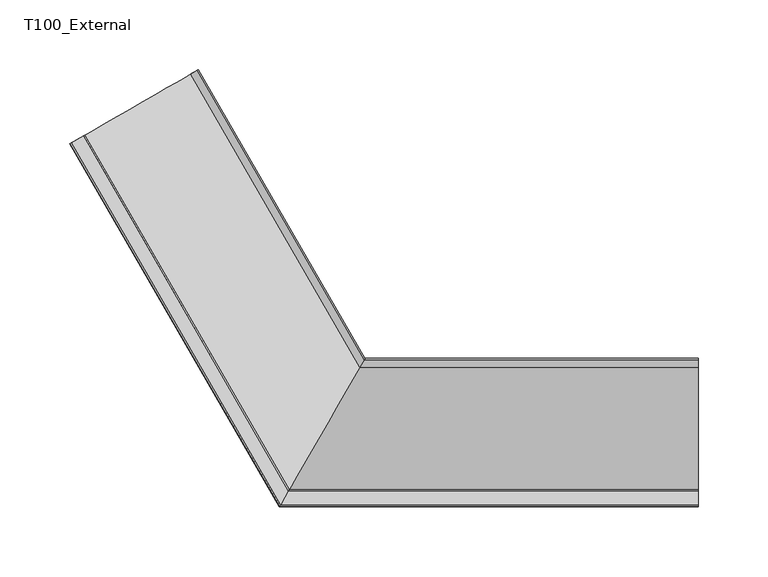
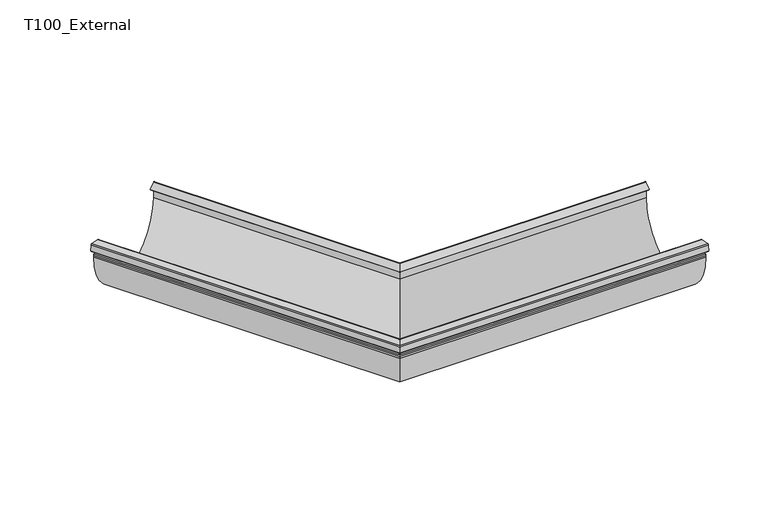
"""IFC4 building model written with IfcOpenShell, lengths in millimetres: proxy geometry, GROVIK_Gutter_Corner_Custom : T100_External."""

from ifc_helpers import new_model, si_unit, frame, origin, place, context, project, spatial, polyline, circle_curve, ellipse_curve, source, transform, mapped, element, save
from ifc_brep_helpers import plane_surface, cylinder_surface, revolved_surface, advanced_brep


def t100_external_8aecd6d0(model_context):
    return source(origin(), model_context, "Body", "AdvancedBrep", [
        advanced_brep(
        [(-202.2027751, 158.8683349, -12.9222473), (-201.4610185, 159.2965882, -3.1323306), (-210.0863128, 154.3167723, -1.3761787), (-210.5350054, 154.0577195, -7.2981526), (-204.5087678, 157.5369694, -6.0711814), (-204.3734225, 157.615111, -6.9575084), (-210.288512, 154.2000325, -8.1618494), (-211.3016257, 153.615111, -7.0898859), (-210.8716383, 153.8633644, -1.4147892), (-209.9334293, 154.4050396, -0.5057502), (-201.404744, 159.3290783, -2.242232), (-200.6923978, 159.7403516, -3.3141955), (-201.4199847, 159.3202791, -12.9170968), (-202.2072356, 158.8657596, -13.8261357), (-206.7246639, 156.2576211, -14.2825008), (-206.7246639, 156.2576211, -16.3578028), (-120.1221236, 206.2576211, -16.3578028), (-120.1221236, 206.2576211, -1.3578028), (-124.23529, 203.8828834, -5.3430859), (-124.7362934, 203.5936289, -4.6536459), (-120.0540486, 206.2969242, -0.1169778), (-119.3427007, 206.7076211, -0.5), (-119.3427007, 206.7076211, -16.3578028), (-207.5040868, 155.8076211, -16.3578028), (-207.5040868, 155.8076211, -14.3741339), (-206.7135405, 156.2640433, -13.3779392), (-58.2472265, -100.8871557, -13.3779392), (-55.2400496, -95.6785725, -12.9222473), (-58.7742574, -101.8, -14.3741339), (-58.7742574, -101.8, -16.3578028), (0.0, 0.0, -16.3578028), (0.0, 0.0, -0.5), (-0.4742319, -0.8213938, -0.1169778), (-3.5957285, -6.2279844, -4.6536459), (-3.2617262, -5.6494755, -5.3430859), (-0.5196152, -0.9, -1.3578028), (-0.5196152, -0.9, -16.3578028), (-58.2546422, -100.9, -16.3578028), (-58.2546422, -100.9, -14.2825008), (-55.2430232, -95.683723, -13.8261357), (-54.7181894, -94.7746841, -12.9170968), (-54.2331314, -93.9345391, -3.3141955), (-54.7080289, -94.7570856, -2.242232), (-60.3938191, -104.6051631, -0.5057502), (-61.0192918, -105.6885136, -1.4147892), (-61.30595, -106.1850202, -7.0898859), (-60.6305409, -105.0151773, -8.1618494), (-56.6871478, -98.1850202, -6.9575084), (-56.7773781, -98.3413035, -6.0711814), (-60.7948698, -105.2998033, -7.2981526), (-60.4957414, -104.7816977, -1.3761787), (-54.7455452, -94.8220658, -3.1323306)],
        [
            (0, 1),
            (1, 2),
            (2, 3),
            (3, 4),
            (4, 5),
            (5, 6),
            (6, 7, circle_curve(frame((-210.4388958, 154.1132084, -7.1770416), z_axis=(-0.49999999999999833, 0.8660254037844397, 0.0), x_axis=(0.8660254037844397, 0.49999999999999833, 0.0)), 1.0)),
            (7, 8),
            (8, 9, circle_curve(frame((-210.0089084, 154.3614617, -1.5019449), z_axis=(-0.49999999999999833, 0.8660254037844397, 0.0), x_axis=(0.8660254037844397, 0.49999999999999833, 0.0)), 1.0)),
            (9, 10),
            (10, 11, circle_curve(frame((-201.5551277, 159.2422543, -3.2270397), z_axis=(-0.49999999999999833, 0.8660254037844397, 0.0), x_axis=(0.8660254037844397, 0.49999999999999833, 0.0)), 1.0)),
            (11, 12),
            (12, 13, circle_curve(frame((-202.2072356, 158.8657596, -12.9170968), z_axis=(-0.49999999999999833, 0.8660254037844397, 0.0), x_axis=(0.8660254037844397, 0.49999999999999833, 0.0)), 0.909039)),
            (13, 14),
            (14, 15),
            (15, 16, circle_curve(frame((-163.4233938, 181.2576211, -16.3578028), z_axis=(0.49999999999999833, -0.8660254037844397, 0.0), x_axis=(0.8660254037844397, 0.49999999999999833, 0.0)), 50.0)),
            (16, 17),
            (17, 18),
            (18, 19),
            (19, 20),
            (20, 21, circle_curve(frame((-119.7757134, 206.4576211, -0.5), z_axis=(-0.49999999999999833, 0.8660254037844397, 0.0), x_axis=(0.8660254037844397, 0.49999999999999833, 0.0)), 0.5)),
            (21, 22),
            (22, 23, circle_curve(frame((-163.4233938, 181.2576211, -16.3578028), z_axis=(-0.49999999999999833, 0.8660254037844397, 0.0), x_axis=(0.8660254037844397, 0.49999999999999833, 0.0)), 50.9)),
            (23, 24),
            (24, 25, circle_curve(frame((-206.6380614, 156.3076211, -14.3741339), z_axis=(-0.49999999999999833, 0.8660254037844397, 0.0), x_axis=(0.8660254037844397, 0.49999999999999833, 0.0)), 1.0)),
            (25, 0),
            (25, 26),
            (26, 27),
            (27, 0),
            (24, 28),
            (28, 26, ellipse_curve(frame((-58.1969071, -100.8, -14.3741339), z_axis=(-0.8660254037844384, 0.5000000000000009, 0.0), x_axis=(0.5000000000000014, 0.8660254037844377, 0.0)), 1.1547005, 1.0)),
            (23, 29),
            (29, 28),
            (22, 30),
            (30, 29, ellipse_curve(frame((-29.3871287, -50.9, -16.3578028), z_axis=(-0.8660254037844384, 0.5000000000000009, 0.0), x_axis=(0.5000000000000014, 0.8660254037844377, 0.0)), 58.7742574, 50.9)),
            (21, 31),
            (31, 30),
            (20, 32),
            (32, 31, ellipse_curve(frame((-0.2886751, -0.5, -0.5), z_axis=(-0.8660254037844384, 0.5000000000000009, 0.0), x_axis=(0.5000000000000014, 0.8660254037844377, 0.0)), 0.5773503, 0.5)),
            (19, 33),
            (33, 32),
            (18, 34),
            (34, 33),
            (17, 35),
            (35, 34),
            (16, 36),
            (36, 35),
            (15, 37),
            (37, 36, ellipse_curve(frame((-29.3871287, -50.9, -16.3578028), z_axis=(0.8660254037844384, -0.5000000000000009, 0.0), x_axis=(-0.5000000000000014, -0.8660254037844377, 0.0)), 57.7350269, 50.0)),
            (14, 38),
            (38, 37),
            (13, 39),
            (39, 38),
            (12, 40),
            (40, 39, ellipse_curve(frame((-55.2430232, -95.683723, -12.9170968), z_axis=(-0.8660254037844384, 0.5000000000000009, 0.0), x_axis=(0.5000000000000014, 0.8660254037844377, 0.0)), 1.0496678, 0.909039)),
            (11, 41),
            (41, 40),
            (10, 42),
            (42, 41, ellipse_curve(frame((-54.8082847, -94.9307338, -3.2270397), z_axis=(-0.8660254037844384, 0.5000000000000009, 0.0), x_axis=(0.5000000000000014, 0.8660254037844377, 0.0)), 1.1547005, 1.0)),
            (9, 43),
            (43, 42),
            (8, 44),
            (44, 43, ellipse_curve(frame((-60.4441385, -104.6923189, -1.5019449), z_axis=(-0.8660254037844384, 0.5000000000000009, 0.0), x_axis=(0.5000000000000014, 0.8660254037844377, 0.0)), 1.1547005, 1.0)),
            (7, 45),
            (45, 44),
            (6, 46),
            (46, 45, ellipse_curve(frame((-60.7307967, -105.1888255, -7.1770416), z_axis=(-0.8660254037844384, 0.5000000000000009, 0.0), x_axis=(0.5000000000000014, 0.8660254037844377, 0.0)), 1.1547005, 1.0)),
            (5, 47),
            (47, 46),
            (4, 48),
            (48, 47),
            (3, 49),
            (49, 48),
            (2, 50),
            (50, 49),
            (1, 51),
            (51, 50),
            (27, 51),
        ],
        [
            plane_surface(frame((-119.3427007, 206.7076211, 0.0), z_axis=(-0.49999999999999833, 0.8660254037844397, 0.0), x_axis=(0.0, 0.0, 1.0))),
            plane_surface(frame((-202.2027751, 158.8683349, -12.9222473), z_axis=(-0.07547908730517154, -0.043577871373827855, 0.996194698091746), x_axis=(0.49999999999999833, -0.8660254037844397, 0.0))),
            cylinder_surface(frame((-206.6380614, 156.3076211, -14.3741339), z_axis=(-0.49999999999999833, 0.8660254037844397, 0.0), x_axis=(0.8660254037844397, 0.49999999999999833, 0.0)), 1.0),
            plane_surface(frame((-207.5040868, 155.8076211, -14.3741339), z_axis=(-0.8660254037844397, -0.49999999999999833, 0.0), x_axis=(0.49999999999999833, -0.8660254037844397, 0.0))),
            cylinder_surface(frame((-163.4233938, 181.2576211, -16.3578028), z_axis=(-0.49999999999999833, 0.8660254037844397, 0.0), x_axis=(0.8660254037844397, 0.49999999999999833, 0.0)), 50.9),
            plane_surface(frame((-119.3427007, 206.7076211, -16.3578028), z_axis=(0.8660254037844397, 0.49999999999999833, 0.0), x_axis=(0.49999999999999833, -0.8660254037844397, 0.0))),
            cylinder_surface(frame((-119.7757134, 206.4576211, -0.5), z_axis=(-0.49999999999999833, 0.8660254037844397, 0.0), x_axis=(0.8660254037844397, 0.49999999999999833, 0.0)), 0.5),
            plane_surface(frame((-120.0540486, 206.2969242, -0.1169778), z_axis=(-0.5566703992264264, -0.32139380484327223, 0.7660444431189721), x_axis=(0.49999999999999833, -0.8660254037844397, 0.0))),
            plane_surface(frame((-124.7362934, 203.5936289, -4.6536459), z_axis=(-0.6634139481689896, -0.3830222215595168, -0.6427876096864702), x_axis=(0.49999999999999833, -0.8660254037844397, 0.0))),
            plane_surface(frame((-124.23529, 203.8828834, -5.3430859), z_axis=(0.5566703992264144, 0.32139380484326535, -0.7660444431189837), x_axis=(0.49999999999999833, -0.8660254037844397, 0.0))),
            plane_surface(frame((-120.1221236, 206.2576211, -1.3578028), z_axis=(-0.8660254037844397, -0.49999999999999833, 0.0), x_axis=(0.49999999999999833, -0.8660254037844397, 0.0))),
            revolved_surface(polyline([(28.34789816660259, -50.900000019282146, -16.3578028), (-120.12212361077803, 206.2576210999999, -16.3578028)]), (-163.4233938, 181.2576211, -16.3578028), (0.49999999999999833, -0.8660254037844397, 0.0)),
            plane_surface(frame((-206.7246639, 156.2576211, -16.3578028), z_axis=(0.8660254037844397, 0.49999999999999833, 0.0), x_axis=(0.49999999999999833, -0.8660254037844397, 0.0))),
            plane_surface(frame((-206.7246639, 156.2576211, -14.2825008), z_axis=(0.07547908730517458, 0.04357787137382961, -0.9961946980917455), x_axis=(0.49999999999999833, -0.8660254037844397, 0.0))),
            cylinder_surface(frame((-202.2072356, 158.8657596, -12.9170968), z_axis=(-0.49999999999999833, 0.8660254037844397, 0.0), x_axis=(0.8660254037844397, 0.49999999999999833, 0.0)), 0.909039),
            plane_surface(frame((-201.4199847, 159.3202791, -12.9170968), z_axis=(0.8627299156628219, 0.49809734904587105, -0.08715574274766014), x_axis=(0.49999999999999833, -0.8660254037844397, 0.0))),
            cylinder_surface(frame((-201.5551277, 159.2422543, -3.2270397), z_axis=(-0.49999999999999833, 0.8660254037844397, 0.0), x_axis=(0.8660254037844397, 0.49999999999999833, 0.0)), 1.0),
            plane_surface(frame((-201.404744, 159.3290783, -2.242232), z_axis=(0.15038373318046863, 0.08682408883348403, 0.9848077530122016), x_axis=(0.49999999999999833, -0.8660254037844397, 0.0))),
            cylinder_surface(frame((-210.0089084, 154.3614617, -1.5019449), z_axis=(-0.49999999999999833, 0.8660254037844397, 0.0), x_axis=(0.8660254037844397, 0.49999999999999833, 0.0)), 1.0),
            plane_surface(frame((-210.8716383, 153.8633644, -1.4147892), z_axis=(-0.8627299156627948, -0.4980973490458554, 0.0871557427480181), x_axis=(0.49999999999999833, -0.8660254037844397, 0.0))),
            cylinder_surface(frame((-210.4388958, 154.1132084, -7.1770416), z_axis=(-0.49999999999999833, 0.8660254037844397, 0.0), x_axis=(0.8660254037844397, 0.49999999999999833, 0.0)), 1.0),
            plane_surface(frame((-210.288512, 154.2000325, -8.1618494), z_axis=(0.1503837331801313, 0.08682408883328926, -0.98480775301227), x_axis=(0.49999999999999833, -0.8660254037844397, 0.0))),
            plane_surface(frame((-204.3734225, 157.615111, -6.9575084), z_axis=(0.8528685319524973, 0.492403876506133, 0.17364817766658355), x_axis=(0.49999999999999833, -0.8660254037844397, 0.0))),
            plane_surface(frame((-204.5087678, 157.5369694, -6.0711814), z_axis=(-0.15038373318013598, -0.08682408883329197, 0.9848077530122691), x_axis=(0.49999999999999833, -0.8660254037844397, 0.0))),
            plane_surface(frame((-210.5350054, 154.0577195, -7.2981526), z_axis=(0.8627299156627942, 0.4980973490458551, -0.08715574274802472), x_axis=(0.49999999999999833, -0.8660254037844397, 0.0))),
            plane_surface(frame((-210.0863128, 154.3167723, -1.3761787), z_axis=(-0.15038373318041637, -0.08682408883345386, -0.9848077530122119), x_axis=(0.49999999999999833, -0.8660254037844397, 0.0))),
            plane_surface(frame((-201.4610185, 159.2965882, -3.1323306), z_axis=(-0.8627299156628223, -0.49809734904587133, 0.08715574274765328), x_axis=(0.49999999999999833, -0.8660254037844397, 0.0))),
            plane_surface(frame((-115.4700538, -200.0, 250.0), z_axis=(0.8660254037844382, -0.5000000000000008, 0.0), x_axis=(0.0, 0.0, -1.0))),
        ],
        [
            (0, [[1, 2, 3, 4, 5, 6, 7, 8, 9, 10, 11, 12, 13, 14, 15, 16, 17, 18, 19, 20, 21, 22, 23, 24, 25, 26]]),
            (1, [[27, 28, 29, -26]]),
            (2, [[30, 31, -27, -25]]),
            (3, [[32, 33, -30, -24]]),
            (4, [[34, 35, -32, -23]]),
            (5, [[36, 37, -34, -22]]),
            (6, [[38, 39, -36, -21]]),
            (7, [[40, 41, -38, -20]]),
            (8, [[42, 43, -40, -19]]),
            (9, [[44, 45, -42, -18]]),
            (10, [[46, 47, -44, -17]]),
            (11, [[48, 49, -46, -16]]),
            (12, [[50, 51, -48, -15]]),
            (13, [[52, 53, -50, -14]]),
            (14, [[54, 55, -52, -13]]),
            (15, [[56, 57, -54, -12]]),
            (16, [[58, 59, -56, -11]]),
            (17, [[60, 61, -58, -10]]),
            (18, [[62, 63, -60, -9]]),
            (19, [[64, 65, -62, -8]]),
            (20, [[66, 67, -64, -7]]),
            (21, [[68, 69, -66, -6]]),
            (22, [[70, 71, -68, -5]]),
            (23, [[72, 73, -70, -4]]),
            (24, [[74, 75, -72, -3]]),
            (25, [[76, 77, -74, -2]]),
            (26, [[-29, 78, -76, -1]]),
            (27, [[-31, -33, -35, -37, -39, -41, -43, -45, -47, -49, -51, -53, -55, -57, -59, -61, -63, -65, -67, -69, -71, -73, -75, -77, -78, -28]]),
        ],
    ),
        advanced_brep(
        [(238.6854014, -95.6785725, -12.9222473), (238.6854014, -100.8871557, -13.3779392), (238.6854014, -101.8, -14.3741339), (238.6854014, -101.8, -16.3578028), (238.6854014, 0.0, -16.3578028), (238.6854014, 0.0, -0.5), (238.6854014, -0.8213938, -0.1169778), (238.6854014, -6.2279844, -4.6536459), (238.6854014, -5.6494755, -5.3430859), (238.6854014, -0.9, -1.3578028), (238.6854014, -0.9, -16.3578028), (238.6854014, -100.9, -16.3578028), (238.6854014, -100.9, -14.2825008), (238.6854014, -95.683723, -13.8261357), (238.6854014, -94.7746841, -12.9170968), (238.6854014, -93.9345391, -3.3141955), (238.6854014, -94.7570856, -2.242232), (238.6854014, -104.6051631, -0.5057502), (238.6854014, -105.6885136, -1.4147892), (238.6854014, -106.1850202, -7.0898859), (238.6854014, -105.0151773, -8.1618494), (238.6854014, -98.1850202, -6.9575084), (238.6854014, -98.3413035, -6.0711814), (238.6854014, -105.2998033, -7.2981526), (238.6854014, -104.7816977, -1.3761787), (238.6854014, -94.8220658, -3.1323306), (-55.2400496, -95.6785725, -12.9222473), (-58.2472265, -100.8871557, -13.3779392), (-58.7742574, -101.8, -14.3741339), (-58.7742574, -101.8, -16.3578028), (0.0, 0.0, -16.3578028), (0.0, 0.0, -0.5), (-0.4742319, -0.8213938, -0.1169778), (-3.5957285, -6.2279844, -4.6536459), (-3.2617262, -5.6494755, -5.3430859), (-0.5196152, -0.9, -1.3578028), (-0.5196152, -0.9, -16.3578028), (-58.2546422, -100.9, -16.3578028), (-58.2546422, -100.9, -14.2825008), (-55.2430232, -95.683723, -13.8261357), (-54.7181894, -94.7746841, -12.9170968), (-54.2331314, -93.9345391, -3.3141955), (-54.7080289, -94.7570856, -2.242232), (-60.3938191, -104.6051631, -0.5057502), (-61.0192918, -105.6885136, -1.4147892), (-61.30595, -106.1850202, -7.0898859), (-60.6305409, -105.0151773, -8.1618494), (-56.6871478, -98.1850202, -6.9575084), (-56.7773781, -98.3413035, -6.0711814), (-60.7948698, -105.2998033, -7.2981526), (-60.4957414, -104.7816977, -1.3761787), (-54.7455452, -94.8220658, -3.1323306)],
        [
            (0, 1),
            (1, 2, circle_curve(frame((238.6854014, -100.8, -14.3741339), z_axis=(1.0, 0.0, 0.0), x_axis=(0.0, 1.0, 0.0)), 1.0)),
            (2, 3),
            (3, 4, circle_curve(frame((238.6854014, -50.9, -16.3578028), z_axis=(1.0, 0.0, 0.0), x_axis=(0.0, 1.0, 0.0)), 50.9)),
            (4, 5),
            (5, 6, circle_curve(frame((238.6854014, -0.5, -0.5), z_axis=(1.0, 0.0, 0.0), x_axis=(0.0, 1.0, 0.0)), 0.5)),
            (6, 7),
            (7, 8),
            (8, 9),
            (9, 10),
            (10, 11, circle_curve(frame((238.6854014, -50.9, -16.3578028), z_axis=(-1.0, 0.0, 0.0), x_axis=(0.0, 1.0, 0.0)), 50.0)),
            (11, 12),
            (12, 13),
            (13, 14, circle_curve(frame((238.6854014, -95.683723, -12.9170968), z_axis=(1.0, 0.0, 0.0), x_axis=(0.0, 1.0, 0.0)), 0.909039)),
            (14, 15),
            (15, 16, circle_curve(frame((238.6854014, -94.9307338, -3.2270397), z_axis=(1.0, 0.0, 0.0), x_axis=(0.0, 1.0, 0.0)), 1.0)),
            (16, 17),
            (17, 18, circle_curve(frame((238.6854014, -104.6923189, -1.5019449), z_axis=(1.0, 0.0, 0.0), x_axis=(0.0, 1.0, 0.0)), 1.0)),
            (18, 19),
            (19, 20, circle_curve(frame((238.6854014, -105.1888255, -7.1770416), z_axis=(1.0, 0.0, 0.0), x_axis=(0.0, 1.0, 0.0)), 1.0)),
            (20, 21),
            (21, 22),
            (22, 23),
            (23, 24),
            (24, 25),
            (25, 0),
            (0, 26),
            (26, 27),
            (27, 1),
            (27, 28, ellipse_curve(frame((-58.1969071, -100.8, -14.3741339), z_axis=(0.8660254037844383, -0.5000000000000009, 0.0), x_axis=(0.5000000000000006, 0.8660254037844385, 0.0)), 1.1547005, 1.0)),
            (28, 2),
            (28, 29),
            (29, 3),
            (29, 30, ellipse_curve(frame((-29.3871287, -50.9, -16.3578028), z_axis=(0.8660254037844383, -0.5000000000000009, 0.0), x_axis=(0.5000000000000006, 0.8660254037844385, 0.0)), 58.7742574, 50.9)),
            (30, 4),
            (30, 31),
            (31, 5),
            (31, 32, ellipse_curve(frame((-0.2886751, -0.5, -0.5), z_axis=(0.8660254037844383, -0.5000000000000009, 0.0), x_axis=(0.5000000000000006, 0.8660254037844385, 0.0)), 0.5773503, 0.5)),
            (32, 6),
            (32, 33),
            (33, 7),
            (33, 34),
            (34, 8),
            (34, 35),
            (35, 9),
            (35, 36),
            (36, 10),
            (36, 37, ellipse_curve(frame((-29.3871287, -50.9, -16.3578028), z_axis=(-0.8660254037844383, 0.5000000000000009, 0.0), x_axis=(-0.5000000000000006, -0.8660254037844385, 0.0)), 57.7350269, 50.0)),
            (37, 11),
            (37, 38),
            (38, 12),
            (38, 39),
            (39, 13),
            (39, 40, ellipse_curve(frame((-55.2430232, -95.683723, -12.9170968), z_axis=(0.8660254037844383, -0.5000000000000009, 0.0), x_axis=(0.5000000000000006, 0.8660254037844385, 0.0)), 1.0496678, 0.909039)),
            (40, 14),
            (40, 41),
            (41, 15),
            (41, 42, ellipse_curve(frame((-54.8082847, -94.9307338, -3.2270397), z_axis=(0.8660254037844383, -0.5000000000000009, 0.0), x_axis=(0.5000000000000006, 0.8660254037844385, 0.0)), 1.1547005, 1.0)),
            (42, 16),
            (42, 43),
            (43, 17),
            (43, 44, ellipse_curve(frame((-60.4441385, -104.6923189, -1.5019449), z_axis=(0.8660254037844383, -0.5000000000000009, 0.0), x_axis=(0.5000000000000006, 0.8660254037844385, 0.0)), 1.1547005, 1.0)),
            (44, 18),
            (44, 45),
            (45, 19),
            (45, 46, ellipse_curve(frame((-60.7307967, -105.1888255, -7.1770416), z_axis=(0.8660254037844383, -0.5000000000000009, 0.0), x_axis=(0.5000000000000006, 0.8660254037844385, 0.0)), 1.1547005, 1.0)),
            (46, 20),
            (46, 47),
            (47, 21),
            (47, 48),
            (48, 22),
            (48, 49),
            (49, 23),
            (49, 50),
            (50, 24),
            (50, 51),
            (51, 25),
            (51, 26),
        ],
        [
            plane_surface(frame((238.6854014, 0.0, 0.0), z_axis=(1.0, 0.0, 0.0), x_axis=(0.0, 0.0, 1.0))),
            plane_surface(frame((238.6854014, -95.6785725, -12.9222473), z_axis=(0.0, -0.087155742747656, 0.9961946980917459), x_axis=(-1.0, 0.0, 0.0))),
            cylinder_surface(frame((238.6854014, -100.8, -14.3741339), z_axis=(1.0, 0.0, 0.0), x_axis=(0.0, 1.0, 0.0)), 1.0),
            plane_surface(frame((238.6854014, -101.8, -14.3741339), z_axis=(0.0, -1.0, 0.0), x_axis=(-1.0, 0.0, 0.0))),
            cylinder_surface(frame((238.6854014, -50.9, -16.3578028), z_axis=(1.0, 0.0, 0.0), x_axis=(0.0, 1.0, 0.0)), 50.9),
            plane_surface(frame((238.6854014, 0.0, -16.3578028), z_axis=(0.0, 1.0, 0.0), x_axis=(-1.0, 0.0, 0.0))),
            cylinder_surface(frame((238.6854014, -0.5, -0.5), z_axis=(1.0, 0.0, 0.0), x_axis=(0.0, 1.0, 0.0)), 0.5),
            plane_surface(frame((238.6854014, -0.8213938, -0.1169778), z_axis=(0.0, -0.6427876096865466, 0.7660444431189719), x_axis=(-1.0, 0.0, 0.0))),
            plane_surface(frame((238.6854014, -6.2279844, -4.6536459), z_axis=(0.0, -0.7660444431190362, -0.6427876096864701), x_axis=(-1.0, 0.0, 0.0))),
            plane_surface(frame((238.6854014, -5.6494755, -5.3430859), z_axis=(0.0, 0.6427876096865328, -0.7660444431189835), x_axis=(-1.0, 0.0, 0.0))),
            plane_surface(frame((238.6854014, -0.9, -1.3578028), z_axis=(0.0, -1.0, 0.0), x_axis=(-1.0, 0.0, 0.0))),
            revolved_surface(polyline([(-58.25464219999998, -0.8999999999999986, -16.3578028), (238.6854014, -0.8999999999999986, -16.3578028)]), (238.6854014, -50.9, -16.3578028), (-1.0, 0.0, 0.0)),
            plane_surface(frame((238.6854014, -100.9, -16.3578028), z_axis=(0.0, 1.0, 0.0), x_axis=(-1.0, 0.0, 0.0))),
            plane_surface(frame((238.6854014, -100.9, -14.2825008), z_axis=(0.0, 0.08715574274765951, -0.9961946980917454), x_axis=(-1.0, 0.0, 0.0))),
            cylinder_surface(frame((238.6854014, -95.683723, -12.9170968), z_axis=(1.0, 0.0, 0.0), x_axis=(0.0, 1.0, 0.0)), 0.909039),
            plane_surface(frame((238.6854014, -94.7746841, -12.9170968), z_axis=(0.0, 0.9961946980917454, -0.08715574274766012), x_axis=(-1.0, 0.0, 0.0))),
            cylinder_surface(frame((238.6854014, -94.9307338, -3.2270397), z_axis=(1.0, 0.0, 0.0), x_axis=(0.0, 1.0, 0.0)), 1.0),
            plane_surface(frame((238.6854014, -94.7570856, -2.242232), z_axis=(0.0, 0.17364817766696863, 0.9848077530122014), x_axis=(-1.0, 0.0, 0.0))),
            cylinder_surface(frame((238.6854014, -104.6923189, -1.5019449), z_axis=(1.0, 0.0, 0.0), x_axis=(0.0, 1.0, 0.0)), 1.0),
            plane_surface(frame((238.6854014, -105.6885136, -1.4147892), z_axis=(0.0, -0.9961946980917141, 0.08715574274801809), x_axis=(-1.0, 0.0, 0.0))),
            cylinder_surface(frame((238.6854014, -105.1888255, -7.1770416), z_axis=(1.0, 0.0, 0.0), x_axis=(0.0, 1.0, 0.0)), 1.0),
            plane_surface(frame((238.6854014, -105.0151773, -8.1618494), z_axis=(0.0, 0.17364817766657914, -0.9848077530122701), x_axis=(-1.0, 0.0, 0.0))),
            plane_surface(frame((238.6854014, -98.1850202, -6.9575084), z_axis=(0.0, 0.9848077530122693, 0.17364817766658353), x_axis=(-1.0, 0.0, 0.0))),
            plane_surface(frame((238.6854014, -98.3413035, -6.0711814), z_axis=(0.0, -0.17364817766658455, 0.9848077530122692), x_axis=(-1.0, 0.0, 0.0))),
            plane_surface(frame((238.6854014, -105.2998033, -7.2981526), z_axis=(0.0, 0.9961946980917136, -0.0871557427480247), x_axis=(-1.0, 0.0, 0.0))),
            plane_surface(frame((238.6854014, -104.7816977, -1.3761787), z_axis=(0.0, -0.17364817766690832, -0.984807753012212), x_axis=(-1.0, 0.0, 0.0))),
            plane_surface(frame((238.6854014, -94.8220658, -3.1323306), z_axis=(0.0, -0.996194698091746, 0.08715574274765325), x_axis=(-1.0, 0.0, 0.0))),
            plane_surface(frame((-115.4700538, -200.0, 250.0), z_axis=(-0.8660254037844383, 0.5000000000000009, 0.0), x_axis=(0.0, 0.0, -1.0))),
        ],
        [
            (0, [[1, 2, 3, 4, 5, 6, 7, 8, 9, 10, 11, 12, 13, 14, 15, 16, 17, 18, 19, 20, 21, 22, 23, 24, 25, 26]]),
            (1, [[-1, 27, 28, 29]]),
            (2, [[-2, -29, 30, 31]]),
            (3, [[-3, -31, 32, 33]]),
            (4, [[-4, -33, 34, 35]]),
            (5, [[-5, -35, 36, 37]]),
            (6, [[-6, -37, 38, 39]]),
            (7, [[-7, -39, 40, 41]]),
            (8, [[-8, -41, 42, 43]]),
            (9, [[-9, -43, 44, 45]]),
            (10, [[-10, -45, 46, 47]]),
            (11, [[-11, -47, 48, 49]]),
            (12, [[-12, -49, 50, 51]]),
            (13, [[-13, -51, 52, 53]]),
            (14, [[-14, -53, 54, 55]]),
            (15, [[-15, -55, 56, 57]]),
            (16, [[-16, -57, 58, 59]]),
            (17, [[-17, -59, 60, 61]]),
            (18, [[-18, -61, 62, 63]]),
            (19, [[-19, -63, 64, 65]]),
            (20, [[-20, -65, 66, 67]]),
            (21, [[-21, -67, 68, 69]]),
            (22, [[-22, -69, 70, 71]]),
            (23, [[-23, -71, 72, 73]]),
            (24, [[-24, -73, 74, 75]]),
            (25, [[-25, -75, 76, 77]]),
            (26, [[-26, -77, 78, -27]]),
            (27, [[-28, -78, -76, -74, -72, -70, -68, -66, -64, -62, -60, -58, -56, -54, -52, -50, -48, -46, -44, -42, -40, -38, -36, -34, -32, -30]]),
        ],
    ),
    ])


if __name__ == "__main__":
    model = new_model("IFC4")
    model_context = context("Model", 3, world=origin())
    ifc_project = project(units=[si_unit("LENGTHUNIT", "METRE", prefix="MILLI")], contexts=[model_context])
    site = spatial("IfcSite", under=ifc_project)
    building = spatial("IfcBuilding", under=site)
    placement = place(None, origin())
    t100_external_shape = t100_external_8aecd6d0(model_context)
    element("IfcBuildingElementProxy", 1, Name="GROVIK_Gutter_Corner_Custom : T100_External", ObjectType="GROVIK_Gutter_Corner_Custom : T100_External", at=placement, inside=building, context=model_context, shape_type="MappedRepresentation", body=[
        mapped(t100_external_shape, transform((0.0, 0.0, 0.0), x_axis=(1.0, 0.0, 0.0), y_axis=(0.0, 1.0, 0.0), z_axis=(0.0, 0.0, 1.0))),
    ])
    save(model, "model.ifc")
